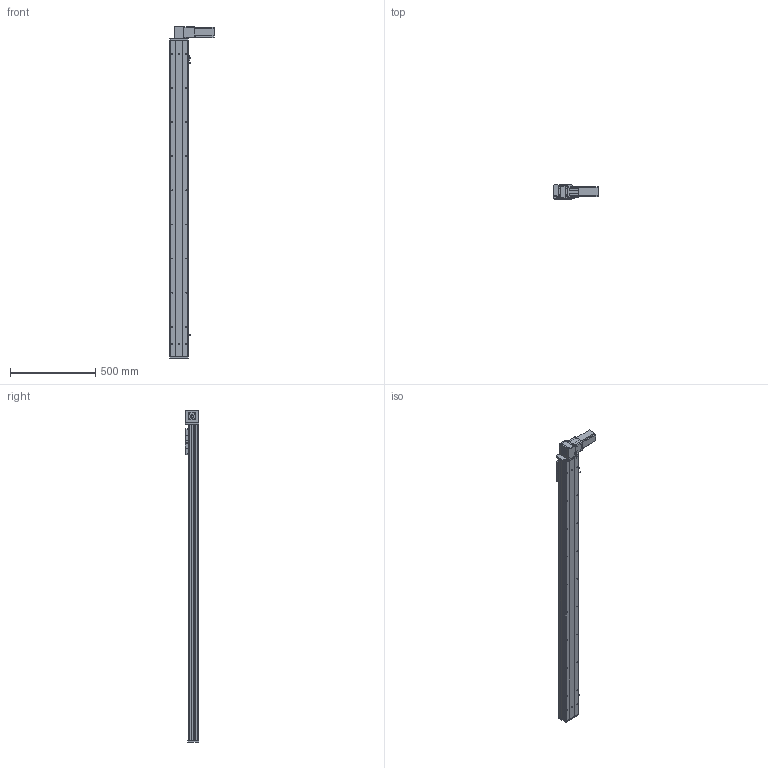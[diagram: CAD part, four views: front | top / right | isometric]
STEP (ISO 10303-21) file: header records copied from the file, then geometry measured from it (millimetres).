
FILE_DESCRIPTION (( 'STEP AP203' ), '1' );
FILE_NAME ('Y10CB-D90-S1600-BD-P400W.STEP', '2020-02-17T02:45:28', ( '微软用户' ), ( '微软中国' ), 'SwSTEP 2.0', 'SolidWorks 2017', '' );
FILE_SCHEMA (( 'CONFIG_CONTROL_DESIGN' ));
Length unit declared in the file: millimetre
Products named in the file (16): Y10C---詩湍揤啣; 0CB-雄赽釱---; 10CB9-掛极; 0Cb-俋欶---; 10CB-耜裔; Y10B-々湍喘謫眊楊擘啣--; Y135C-陔俋离換覜結え-; san松下电机400不带刹车----; Y100-135俋离換覜ん--; 0B-源倛裔啣; Y10B--々湍喘謫眊--666; 0B-埴倛裔啣; 0B-薊粣ん眊; 10CB-詩湍-; Y10CB-D90-S1600-BD-P400W; Y10CB- 掛极耜裔啣-毀---
Assembly tree (19 placements, depth 2):
  Y10CB-D90-S1600-BD-P400W
    0CB-雄赽釱---
    0Cb-俋欶---
    Y10B-々湍喘謫眊楊擘啣--
    san松下电机400不带刹车----
    0B-源倛裔啣
    0B-埴倛裔啣
    10CB-詩湍-
    Y10CB- 掛极耜裔啣-毀---  x2
    Y10C---詩湍揤啣  x2
    10CB9-掛极
    10CB-耜裔
    Y135C-陔俋离換覜結え-
    Y100-135俋离換覜ん--  x3
    Y10B--々湍喘謫眊--666
    0B-薊粣ん眊
Bounding box: 258 x 80.5 x 1946 mm (x, y, z)
Volume: 4183197 mm3; surface area: 1896073.4 mm2
Topology: 19 solids, 19 shells, 936 faces, 2502 edges, 1628 vertices
Faces by surface type: cylinder 470, plane 442, cone 24
Entity records: 29069 total; most frequent: CARTESIAN_POINT 5348, DIRECTION 4661, ORIENTED_EDGE 4474, EDGE_CURVE 2237, AXIS2_PLACEMENT_3D 1671, VERTEX_POINT 1454, VECTOR 1319, LINE 1319
